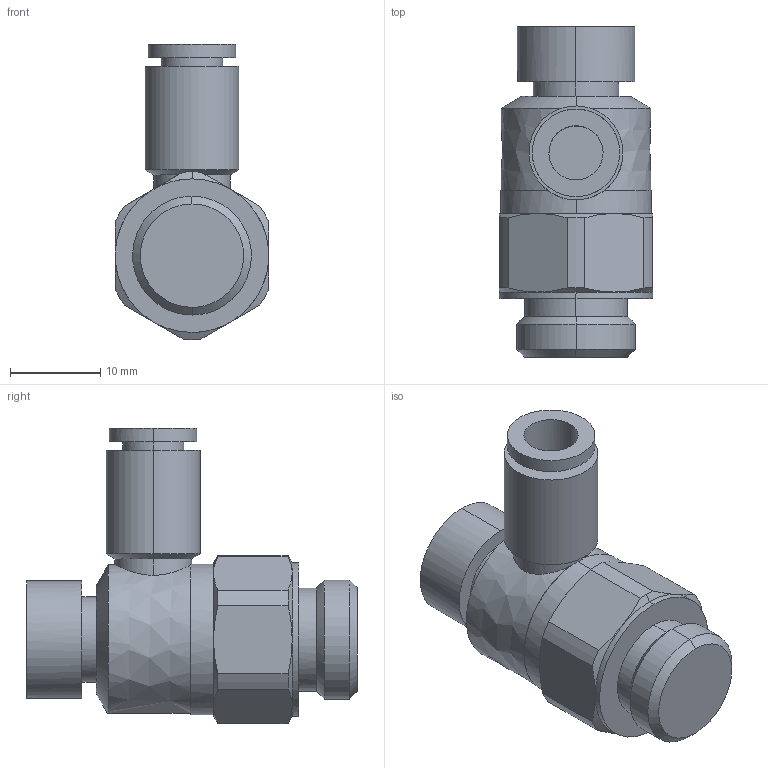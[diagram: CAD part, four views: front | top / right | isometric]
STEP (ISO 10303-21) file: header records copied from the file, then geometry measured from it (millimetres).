
FILE_DESCRIPTION (( 'STEP AP214' ), '1' );
FILE_NAME ('AS2211FC-G02-06A.STEP', '2023-03-08T10:07:39', ( 'Windows User' ), ( 'P R C' ), 'SwSTEP 2.0', 'SolidWorks 2019', '' );
FILE_SCHEMA (( 'AUTOMOTIVE_DESIGN' ));
Length unit declared in the file: millimetre
Products named in the file (1): AS2211FC-G02-06A
Bounding box: 17.01 x 36.6 x 32.7 mm (x, y, z)
Volume: 7594.1 mm3; surface area: 3197.3 mm2
Topology: 1 solids, 1 shells, 73 faces, 172 edges, 109 vertices
Faces by surface type: bspline 54, plane 19
Entity records: 2816 total; most frequent: CARTESIAN_POINT 1726, ORIENTED_EDGE 344, EDGE_CURVE 172, VERTEX_POINT 109, B_SPLINE_CURVE_WITH_KNOTS 105, EDGE_LOOP 81, FACE_OUTER_BOUND 73, ADVANCED_FACE 73
